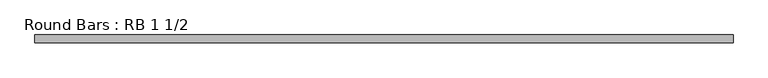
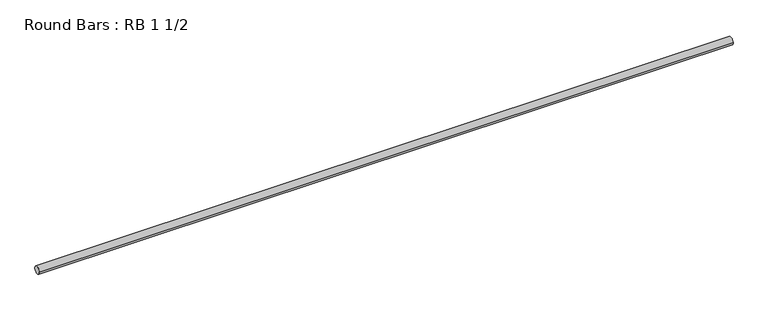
"""IFC4 building model written with IfcOpenShell, lengths in millimetres: member geometry, Round Bars : RB 1 1/2."""

from ifc_helpers import new_model, si_unit, point, frame, origin, origin_2d, place, context, project, spatial, circle_curve, trimmed, segment, composite_curve, outline, extrude, source, transform, mapped, element, save


def round_bars_rb_1_1_2_ce99a107(model_context):
    return source(origin(), model_context, "Body", "SweptSolid", [
        extrude(outline(composite_curve([segment(trimmed(circle_curve(origin_2d(), 19.05), [point((19.05, 0.0))], [point((-19.05, 0.0))], False, "CARTESIAN"), True, "CONTINUOUS"), segment(trimmed(circle_curve(origin_2d(), 19.05), [point((-19.05, 0.0))], [point((19.05, 0.0))], False, "CARTESIAN"), True, "CONTINUOUS")], self_intersect=False)), frame((-1774.0881623, 0.0, 0.0), z_axis=(1.0, 0.0, 0.0), x_axis=(0.0, 1.0, 0.0)), (0.0, 0.0, 1.0), 3452.7920557),
    ])


if __name__ == "__main__":
    model = new_model("IFC4")
    model_context = context("Model", 3, world=origin())
    ifc_project = project(units=[si_unit("LENGTHUNIT", "METRE", prefix="MILLI")], contexts=[model_context])
    site = spatial("IfcSite", under=ifc_project)
    building = spatial("IfcBuilding", under=site)
    placement = place(None, origin())
    round_bars_rb_1_1_2_shape = round_bars_rb_1_1_2_ce99a107(model_context)
    element("IfcMember", 1, ObjectType="Round Bars : RB 1 1/2", at=placement, inside=building, context=model_context, shape_type="MappedRepresentation", body=[
        mapped(round_bars_rb_1_1_2_shape, transform((0.0, 0.0, 0.0), x_axis=(1.0, 0.0, 0.0), y_axis=(0.0, 1.0, 0.0), z_axis=(0.0, 0.0, 1.0))),
    ])
    save(model, "model.ifc")
